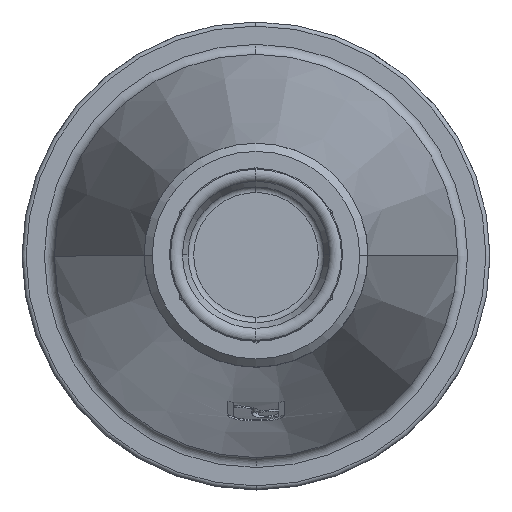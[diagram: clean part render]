
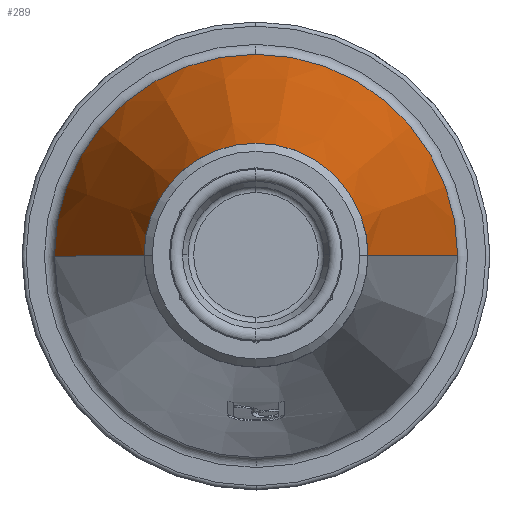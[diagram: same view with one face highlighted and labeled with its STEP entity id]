
A CAD part, top view. The second image highlights one B-rep face of the part: STEP entity #289.
In plain terms, the highlighted conical face has half-angle 12.633 degrees and reference radius 77.092 mm.
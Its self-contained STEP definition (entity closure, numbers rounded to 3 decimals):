
#289=ADVANCED_FACE('',(#623),#624,.T.);
#623=FACE_OUTER_BOUND('',#1039,.T.);
#624=CONICAL_SURFACE('',#1040,77.092,0.22);
#1039=EDGE_LOOP('',(#1694,#1695,#1696,#1697,#1698));
#1040=AXIS2_PLACEMENT_3D('',#1699,#1700,#1701);
#1694=ORIENTED_EDGE('',*,*,#2425,.T.);
#1695=ORIENTED_EDGE('',*,*,#2541,.F.);
#1696=ORIENTED_EDGE('',*,*,#2394,.F.);
#1697=ORIENTED_EDGE('',*,*,#2427,.T.);
#1698=ORIENTED_EDGE('',*,*,#2542,.T.);
#1699=CARTESIAN_POINT('',(276.657,382.04,114.207));
#1700=DIRECTION('',(0.,0.,-1.0));
#1701=DIRECTION('',(1.,0.001,0.));
#2394=EDGE_CURVE('',#2825,#2827,#2828,.T.);
#2425=EDGE_CURVE('',#2881,#2882,#2883,.T.);
#2427=EDGE_CURVE('',#2825,#2884,#2886,.T.);
#2541=EDGE_CURVE('',#2827,#2882,#3059,.T.);
#2542=EDGE_CURVE('',#2884,#2881,#3060,.T.);
#2825=VERTEX_POINT('',#3437);
#2827=VERTEX_POINT('',#3439);
#2828=CIRCLE('',#3440,99.123);
#2881=VERTEX_POINT('',#3581);
#2882=VERTEX_POINT('',#3582);
#2883=LINE('',#3583,#3584);
#2884=VERTEX_POINT('',#3585);
#2886=LINE('',#3587,#3588);
#3059=CIRCLE('',#4201,99.123);
#3060=CIRCLE('',#4202,55.061);
#3437=CARTESIAN_POINT('',(177.535,381.927,15.915));
#3439=CARTESIAN_POINT('',(276.544,481.163,15.915));
#3440=AXIS2_PLACEMENT_3D('',#4736,#4737,#4738);
#3581=CARTESIAN_POINT('',(331.718,382.103,212.5));
#3582=CARTESIAN_POINT('',(375.78,382.153,15.915));
#3583=CARTESIAN_POINT('',(353.749,382.128,114.207));
#3584=VECTOR('',#4786,1.0);
#3585=CARTESIAN_POINT('',(221.597,381.977,212.5));
#3587=CARTESIAN_POINT('',(199.566,381.952,114.207));
#3588=VECTOR('',#4790,1.0);
#4201=AXIS2_PLACEMENT_3D('',#4897,#4898,#4899);
#4202=AXIS2_PLACEMENT_3D('',#4900,#4901,#4902);
#4736=CARTESIAN_POINT('',(276.657,382.04,15.915));
#4737=DIRECTION('',(0.,0.,-1.0));
#4738=DIRECTION('',(1.,0.001,0.));
#4786=DIRECTION('',(0.219,0.,-0.976));
#4790=DIRECTION('',(0.219,0.,0.976));
#4897=CARTESIAN_POINT('',(276.657,382.04,15.915));
#4898=DIRECTION('',(0.,0.,-1.0));
#4899=DIRECTION('',(1.,0.001,0.));
#4900=CARTESIAN_POINT('',(276.657,382.04,212.5));
#4901=DIRECTION('',(0.,0.,-1.0));
#4902=DIRECTION('',(1.,0.001,0.));
